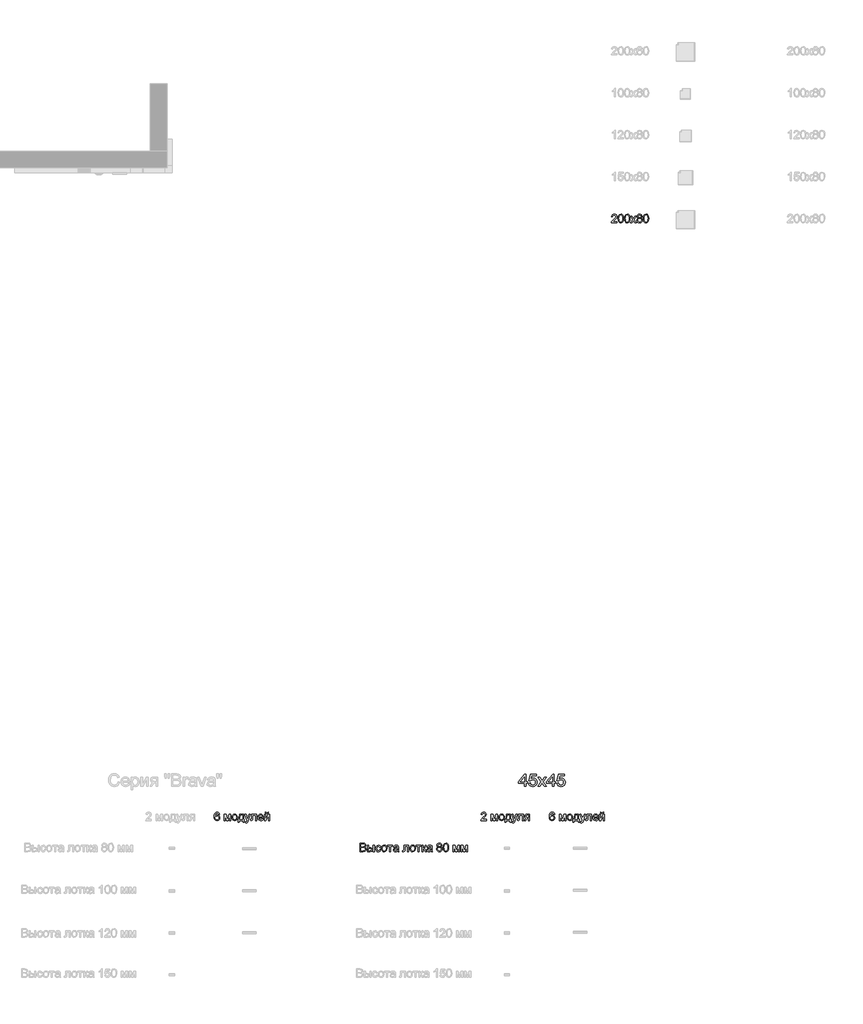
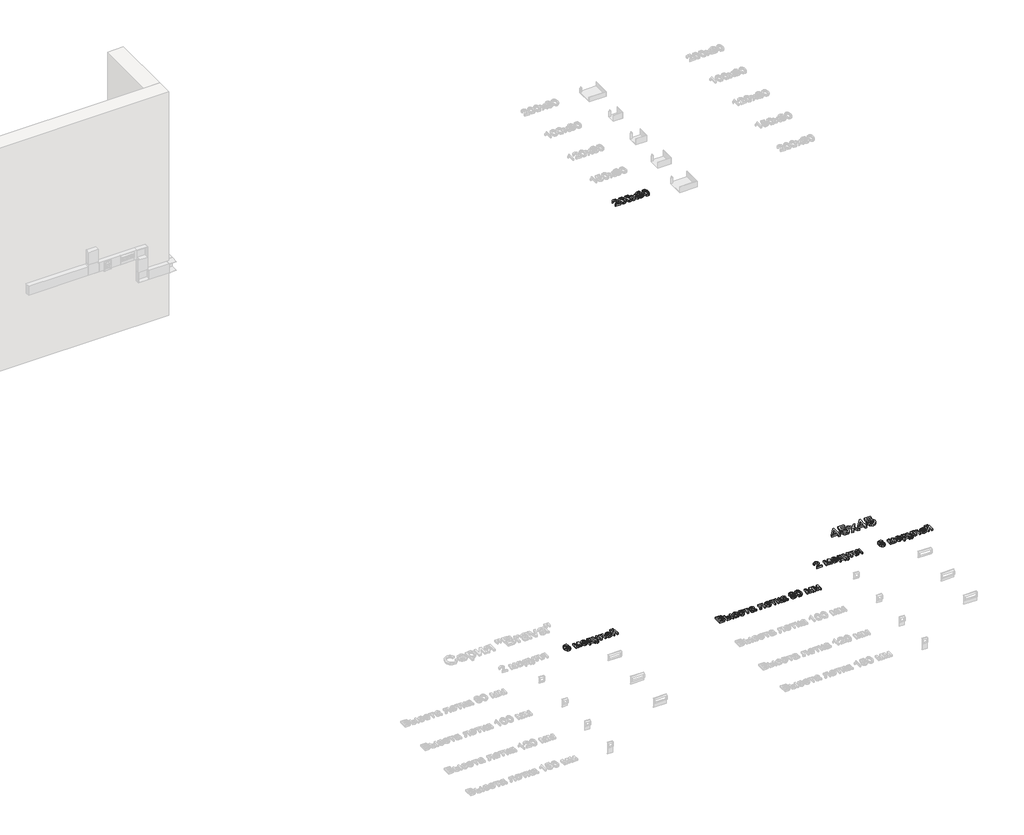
# One storey, part 12 of 28: 6 proxies.
"""IFC4 building model written with IfcOpenShell, lengths in millimetres."""

from ifc_helpers import new_model, si_unit, origin, origin_with_axes, place, context, project, spatial, polyline, outline, extrude, element, save

model = new_model("IFC4")

# Units and contexts
model_context = context("Model", 3, world=origin())
ifc_project = project(units=[si_unit("LENGTHUNIT", "METRE", prefix="MILLI")], contexts=[model_context])

# Site, building, storey
site = spatial("IfcSite", under=ifc_project)
building = spatial("IfcBuilding", under=site)
storey = spatial("IfcBuildingStorey", under=building, Name="Этаж 01", Elevation=0.0)

# Proxies
placement = place(None, origin())
element("IfcBuildingElementProxy", 1, Name="150 мм Arial", ObjectType="150 мм Arial", at=placement, inside=storey, context=model_context, shape_type="SweptSolid", body=[
    extrude(outline(polyline([(11877.4037706, -11189.4000589), (11877.4037706, -11154.0833874), (11809.1248723, -11154.0833874), (11809.1248723, -11135.2478293), (11882.1126602, -11041.0700385), (11896.2393288, -11041.0700385), (11896.2393288, -11135.2478293), (11915.074887, -11135.2478293), (11915.074887, -11154.0833874), (11896.2393288, -11154.0833874), (11896.2393288, -11189.4000589), (11877.4037706, -11189.4000589)]), holes=[polyline([(11877.4037706, -11135.2478293), (11877.4037706, -11077.0488976), (11832.301438, -11135.2478293), (11877.4037706, -11135.2478293)])]), origin_with_axes(), (0.0, 0.0, 1.0), 20.0),
    extrude(outline(polyline([(11931.5560003, -11149.3744979), (11950.3915585, -11147.0200531), (11953.8496492, -11158.3278259), (11959.882914, -11166.4258283), (11968.4637615, -11171.2956663), (11979.5646007, -11172.9189456), (11993.0658699, -11170.6610698), (12003.1826248, -11163.8874426), (12009.5009981, -11153.3798131), (12011.6071225, -11139.9199306), (12009.6343553, -11127.2463959), (12003.7160537, -11117.5527053), (11993.8062324, -11111.3998789), (11979.8589063, -11109.3489368), (11963.3226106, -11112.6230865), (11952.7460033, -11121.1211606), (11933.9104451, -11118.7667159), (11950.3915585, -11041.0700385), (12023.3793463, -11041.0700385), (12023.3793463, -11059.9055966), (11965.6218731, -11059.9055966), (11957.5652574, -11101.4026857), (11971.0205414, -11093.2357054), (11985.1196188, -11090.5133786), (12002.7181738, -11093.8886959), (12017.3276875, -11104.0146479), (12027.1639324, -11119.4472976), (12030.4426806, -11138.7427082), (12027.4904276, -11157.5782664), (12018.6336686, -11173.6914977), (12001.6743086, -11187.2387522), (11979.4910243, -11191.7545037), (11960.9911585, -11188.8528345), (11946.252886, -11180.1478268), (11936.1499268, -11166.6511561), (11931.5560003, -11149.3744979)])), origin_with_axes(), (0.0, 0.0, 1.0), 20.0),
    extrude(outline(polyline([(12039.8604597, -11189.4000589), (12080.10675, -11133.7763013), (12042.2149045, -11078.7411548), (12064.8764354, -11078.7411548), (12083.1601705, -11105.2286584), (12091.6950328, -11117.7366463), (12099.0894609, -11107.5095268), (12119.9115819, -11078.7411548), (12142.5731128, -11078.7411548), (12102.7682809, -11133.7763013), (12141.1015848, -11189.4000589), (12118.4400539, -11189.4000589), (12095.3738528, -11155.9595856), (12091.1432098, -11149.8527445), (12062.5219906, -11189.4000589), (12039.8604597, -11189.4000589)])), origin_with_axes(), (0.0, 0.0, 1.0), 20.0),
    extrude(outline(polyline([(12214.0893726, -11189.4000589), (12214.0893726, -11154.0833874), (12145.8104743, -11154.0833874), (12145.8104743, -11135.2478293), (12218.7982622, -11041.0700385), (12232.9249308, -11041.0700385), (12232.9249308, -11135.2478293), (12251.7604889, -11135.2478293), (12251.7604889, -11154.0833874), (12232.9249308, -11154.0833874), (12232.9249308, -11189.4000589), (12214.0893726, -11189.4000589)]), holes=[polyline([(12214.0893726, -11135.2478293), (12214.0893726, -11077.0488976), (12168.98704, -11135.2478293), (12214.0893726, -11135.2478293)])]), origin_with_axes(), (0.0, 0.0, 1.0), 20.0),
    extrude(outline(polyline([(12268.2416023, -11149.3744979), (12287.0771605, -11147.0200531), (12290.5352512, -11158.3278259), (12296.568516, -11166.4258283), (12305.1493635, -11171.2956663), (12316.2502027, -11172.9189456), (12329.7514719, -11170.6610698), (12339.8682268, -11163.8874426), (12346.1866001, -11153.3798131), (12348.2927245, -11139.9199306), (12346.3199573, -11127.2463959), (12340.4016557, -11117.5527053), (12330.4918344, -11111.3998789), (12316.5445083, -11109.3489368), (12300.0082126, -11112.6230865), (12289.4316052, -11121.1211606), (12270.5960471, -11118.7667159), (12287.0771605, -11041.0700385), (12360.0649483, -11041.0700385), (12360.0649483, -11059.9055966), (12302.3074751, -11059.9055966), (12294.2508594, -11101.4026857), (12307.7061434, -11093.2357054), (12321.8052208, -11090.5133786), (12339.4037758, -11093.8886959), (12354.0132895, -11104.0146479), (12363.8495343, -11119.4472976), (12367.1282826, -11138.7427082), (12364.1760296, -11157.5782664), (12355.3192706, -11173.6914977), (12338.3599106, -11187.2387522), (12316.1766263, -11191.7545037), (12297.6767605, -11188.8528345), (12282.938488, -11180.1478268), (12272.8355287, -11166.6511561), (12268.2416023, -11149.3744979)])), origin_with_axes(), (0.0, 0.0, 1.0), 20.0),
])
element("IfcBuildingElementProxy", 2, Name="100 мм Arial", ObjectType="100 мм Arial", at=placement, inside=storey, context=model_context, shape_type="SweptSolid", body=[
    extrude(outline(polyline([(8241.5720491, -11522.3305611), (8229.0150103, -11523.9001909), (8224.2570698, -11513.4278168), (8211.6755056, -11508.2038924), (8200.3447401, -11511.2450503), (8191.7730896, -11522.6616549), (8188.2046343, -11545.0411429), (8199.2778823, -11535.0224899), (8212.9998808, -11531.7483401), (8224.6004263, -11533.9862889), (8234.3370365, -11540.7001354), (8240.9405183, -11550.9579117), (8243.1416789, -11563.8276501), (8238.9968751, -11581.1548921), (8227.5925332, -11593.4176253), (8211.1359453, -11597.6727937), (8196.8897151, -11594.852365), (8185.5436212, -11586.3910792), (8178.1216019, -11571.4550702), (8175.6475955, -11549.2104722), (8178.3944478, -11524.2006279), (8186.6350044, -11507.1002465), (8197.8860621, -11498.5102019), (8212.4603205, -11495.6468537), (8223.4783863, -11497.4188186), (8232.3014228, -11502.7347135), (8238.4818403, -11511.1776052), (8241.5720491, -11522.3305611)]), holes=[polyline([(8188.2046343, -11563.6314464), (8191.1109021, -11574.5084907), (8198.836424, -11582.4056909), (8210.1549267, -11585.1157549), (8218.4414686, -11583.711672), (8224.9560456, -11579.4994231), (8229.1774915, -11572.8775472), (8230.5846401, -11564.244583), (8229.1958856, -11555.9580411), (8225.029622, -11549.6396678), (8218.4046804, -11545.6389511), (8209.6398919, -11544.3053789), (8194.4463655, -11549.6396678), (8189.7650671, -11555.8047569), (8188.2046343, -11563.6314464)])]), origin_with_axes(), (0.0, 0.0, 1.0), 20.0),
    extrude(outline(polyline([(8296.5090937, -11522.3305611), (8318.1160295, -11522.3305611), (8334.7688212, -11581.387884), (8352.7214625, -11522.3305611), (8373.4209561, -11522.3305611), (8373.4209561, -11596.1031638), (8360.8639174, -11596.1031638), (8360.8639174, -11536.7024843), (8342.8131741, -11596.1031638), (8326.3320607, -11596.1031638), (8309.0661324, -11533.8575302), (8309.0661324, -11596.1031638), (8296.5090937, -11596.1031638), (8296.5090937, -11522.3305611)])), origin_with_axes(), (0.0, 0.0, 1.0), 20.0),
    extrude(outline(polyline([(8389.1172546, -11559.2168624), (8391.83345, -11541.429768), (8399.9820362, -11528.9279115), (8410.0497401, -11522.8026763), (8422.1040068, -11520.7609312), (8435.295642, -11523.2472004), (8445.8323955, -11530.7060078), (8452.73938, -11542.5487424), (8455.0417081, -11558.1867929), (8450.9704807, -11580.5294927), (8439.1124177, -11593.1723706), (8422.1040068, -11597.6727937), (8408.7529561, -11595.1957216), (8398.2284653, -11587.7645053), (8391.3950573, -11575.6734504), (8389.1172546, -11559.2168624)]), holes=[polyline([(8401.6742934, -11559.192337), (8403.1274272, -11570.5568249), (8407.4868289, -11578.6532945), (8414.0473911, -11583.5001398), (8422.1040068, -11585.1157549), (8430.1238343, -11583.4909428), (8436.6721338, -11578.6165063), (8441.0315355, -11570.4127378), (8442.4846694, -11558.7999295), (8441.0223384, -11547.7665353), (8436.6353456, -11539.7804304), (8430.0778491, -11534.9335851), (8422.1040068, -11533.31797), (8414.0473911, -11534.9274537), (8407.4868289, -11539.7559049), (8403.1274272, -11547.8339804), (8401.6742934, -11559.192337)])]), origin_with_axes(), (0.0, 0.0, 1.0), 20.0),
    extrude(outline(polyline([(8480.1557857, -11522.3305611), (8527.244681, -11522.3305611), (8527.244681, -11583.5461251), (8536.6624601, -11583.5461251), (8536.6624601, -11616.5083518), (8524.1054214, -11616.5083518), (8524.1054214, -11596.1031638), (8472.3076364, -11596.1031638), (8472.3076364, -11616.5083518), (8459.7505977, -11616.5083518), (8459.7505977, -11583.5461251), (8467.5987469, -11583.5461251), (8477.2985688, -11559.5970072), (8480.1557857, -11522.3305611)]), holes=[polyline([(8491.1431946, -11534.8875998), (8488.2001386, -11563.4965563), (8481.7254155, -11583.5461251), (8514.6876423, -11583.5461251), (8514.6876423, -11534.8875998), (8491.1431946, -11534.8875998)])]), origin_with_axes(), (0.0, 0.0, 1.0), 20.0),
    extrude(outline(polyline([(8550.7891287, -11624.3565011), (8549.2194989, -11612.2654462), (8555.5961201, -11613.3690921), (8561.5558085, -11611.9834033), (8565.2101029, -11608.1206423), (8568.6436682, -11598.8745415), (8569.6246869, -11595.8333837), (8542.9409795, -11522.3305611), (8556.1847313, -11522.3305611), (8570.3359254, -11563.2880899), (8575.2655441, -11579.6711014), (8580.1951629, -11565.2010762), (8594.7387644, -11522.3305611), (8607.8844144, -11522.3305611), (8582.2062511, -11597.8689974), (8575.5353243, -11614.2520089), (8568.2512608, -11623.1057023), (8558.4655997, -11625.9261309), (8550.7891287, -11624.3565011)])), origin_with_axes(), (0.0, 0.0, 1.0), 20.0),
    extrude(outline(polyline([(8624.5617315, -11522.3305611), (8681.068406, -11522.3305611), (8681.068406, -11596.0295874), (8668.5113672, -11596.0295874), (8668.5113672, -11534.8875998), (8637.1187703, -11534.8875998), (8637.1187703, -11570.081644), (8636.2726417, -11586.3175028), (8631.6250658, -11593.1723706), (8620.6376569, -11596.1031638), (8610.4350629, -11595.4655017), (8610.4350629, -11583.5461251), (8616.0513947, -11583.5461251), (8621.7290401, -11582.7735729), (8623.9976458, -11580.3210262), (8624.5617315, -11569.3704055), (8624.5617315, -11522.3305611)])), origin_with_axes(), (0.0, 0.0, 1.0), 20.0),
    extrude(outline(polyline([(8751.5545962, -11574.128346), (8763.8663803, -11575.6979758), (8759.4303366, -11584.9747335), (8752.3516739, -11591.9093091), (8742.7898077, -11596.2319225), (8730.9041536, -11597.6727937), (8716.1704797, -11595.1865245), (8704.8335829, -11587.7277171), (8697.6047016, -11575.7807493), (8695.1950746, -11559.8299991), (8697.6292271, -11543.3427544), (8704.9316847, -11531.0125762), (8716.1152974, -11523.3238425), (8730.1929151, -11520.7609312), (8743.83214, -11523.3177111), (8754.7306441, -11530.9880507), (8761.8767519, -11543.2937034), (8764.2587878, -11559.7564227), (8764.1852114, -11563.1409371), (8707.7521133, -11563.1409371), (8709.9256828, -11572.540322), (8714.9748632, -11579.4503722), (8722.2619924, -11583.6994092), (8731.1494082, -11585.1157549), (8743.4611923, -11582.49153), (8751.5545962, -11574.128346)]), holes=[polyline([(8707.7521133, -11550.5838983), (8751.701749, -11550.5838983), (8746.6740284, -11539.2040819), (8739.3531767, -11534.789498), (8730.1438641, -11533.31797), (8714.6805576, -11538.0145968), (8709.8153182, -11543.5052356), (8707.7521133, -11550.5838983)])]), origin_with_axes(), (0.0, 0.0, 1.0), 20.0),
    extrude(outline(polyline([(8776.8158266, -11522.3305611), (8789.3728653, -11522.3305611), (8789.3728653, -11578.5919809), (8820.225902, -11522.3305611), (8836.4617607, -11522.3305611), (8836.4617607, -11596.1031638), (8823.904722, -11596.1031638), (8823.904722, -11540.1851006), (8793.247889, -11596.1031638), (8776.8158266, -11596.1031638), (8776.8158266, -11522.3305611)])), origin_with_axes(), (0.0, 0.0, 1.0), 20.0),
    extrude(outline(polyline([(8817.6262026, -11495.6468537), (8827.0439816, -11495.6468537), (8820.9494033, -11509.6141068), (8807.4236086, -11514.4824118), (8792.7819052, -11509.650895), (8786.2336056, -11495.6468537), (8795.6513847, -11495.6468537), (8799.1830519, -11502.7224507), (8806.2954371, -11505.0646328), (8814.0945354, -11502.7960271), (8817.6262026, -11495.6468537)])), origin_with_axes(), (0.0, 0.0, 1.0), 20.0),
])
element("IfcBuildingElementProxy", 3, Name="100 мм Arial", ObjectType="100 мм Arial", at=placement, inside=storey, context=model_context, shape_type="SweptSolid", body=[
    extrude(outline(polyline([(9915.5247749, -11966.5703412), (9915.5247749, -11866.114031), (9953.8580788, -11866.114031), (9972.6323233, -11869.0693497), (9983.7178341, -11878.156035), (9987.7277478, -11891.0073794), (9984.3554962, -11902.742815), (9974.165165, -11911.6332966), (9986.5382627, -11921.0020247), (9990.8670075, -11936.6247468), (9987.9116888, -11950.126016), (9980.5908371, -11959.7399988), (9969.6647419, -11964.8412958), (9953.5637732, -11966.5703412), (9915.5247749, -11966.5703412)]), holes=[polyline([(9928.0818137, -11906.924407), (9951.0131247, -11906.924407), (9964.4040294, -11905.8452865), (9972.460645, -11901.1977106), (9975.1707091, -11893.0184676), (9972.644586, -11884.8269619), (9965.4095735, -11879.9831823), (9949.2718166, -11878.6710698), (9928.0818137, -11878.6710698), (9928.0818137, -11906.924407)]), polyline([(9928.0818137, -11954.0133024), (9953.8335534, -11954.0133024), (9963.1532306, -11953.5227931), (9971.038168, -11950.7882036), (9976.2620923, -11945.20866), (9978.3099688, -11936.7473741), (9975.9064731, -11926.9862385), (9968.1196375, -11921.1614402), (9952.60728, -11919.4814458), (9928.0818137, -11919.4814458), (9928.0818137, -11954.0133024)])]), origin_with_axes(), (0.0, 0.0, 1.0), 20.0),
    extrude(outline(polyline([(10075.6270192, -11892.7977384), (10088.184058, -11892.7977384), (10088.184058, -11966.5703412), (10075.6270192, -11966.5703412), (10075.6270192, -11892.7977384)])), origin_with_axes(), (0.0, 0.0, 1.0), 20.0),
    extrude(outline(polyline([(10006.563306, -11892.7977384), (10019.1203448, -11892.7977384), (10019.1203448, -11919.4814458), (10034.644965, -11919.4814458), (10048.0634607, -11921.0541413), (10058.0054717, -11925.7722279), (10064.158298, -11933.2555608), (10066.2092401, -11943.1239954), (10064.4893918, -11952.1095131), (10059.3298468, -11959.6909479), (10050.39338, -11964.8504929), (10037.3427663, -11966.5703412), (10006.563306, -11966.5703412), (10006.563306, -11892.7977384)]), holes=[polyline([(10019.1203448, -11954.0133024), (10032.0207401, -11954.0133024), (10048.6735317, -11951.3768148), (10053.6522014, -11943.1485208), (10049.9611187, -11935.4229989), (10033.6639463, -11932.0384846), (10019.1203448, -11932.0384846), (10019.1203448, -11954.0133024)])]), origin_with_axes(), (0.0, 0.0, 1.0), 20.0),
    extrude(outline(polyline([(10154.1085115, -11939.8866338), (10166.6655503, -11941.4562636), (10163.16454, -11952.6245479), (10156.5855836, -11961.064374), (10147.5479493, -11966.3710718), (10136.670905, -11968.139971), (10123.3137229, -11965.672096), (10112.8689399, -11958.2684708), (10106.1275023, -11946.254058), (10103.8803565, -11929.9538199), (10107.7185919, -11909.0949108), (10119.4172394, -11895.6917434), (10136.4992267, -11891.2281086), (10147.1095566, -11892.7609502), (10155.5923022, -11897.3594752), (10161.6776836, -11904.7784287), (10165.0959205, -11914.7725563), (10152.5388817, -11916.3421861), (10146.7140834, -11906.9366698), (10136.5973286, -11903.7851473), (10128.4824649, -11905.3363831), (10122.0414643, -11909.9900903), (10117.8384125, -11917.9976551), (10116.4373952, -11929.6104634), (10117.8077557, -11941.3796216), (10121.918837, -11949.4147775), (10128.2433416, -11954.0408936), (10136.253972, -11955.5829323), (10148.0875095, -11951.732434), (10154.1085115, -11939.8866338)])), origin_with_axes(), (0.0, 0.0, 1.0), 20.0),
    extrude(outline(polyline([(10174.5136995, -11929.6840398), (10177.2298949, -11911.8969453), (10185.3784811, -11899.3950889), (10195.4461851, -11893.2698536), (10207.5004518, -11891.2281086), (10220.692087, -11893.7143777), (10231.2288405, -11901.1731852), (10238.1358249, -11913.0159197), (10240.4381531, -11928.6539702), (10236.3669257, -11950.9966701), (10224.5088627, -11963.639548), (10207.5004518, -11968.139971), (10194.149401, -11965.6628989), (10183.6249103, -11958.2316826), (10176.7915022, -11946.1406277), (10174.5136995, -11929.6840398)]), holes=[polyline([(10187.0707383, -11929.6595143), (10188.5238722, -11941.0240023), (10192.8832738, -11949.1204719), (10199.4438361, -11953.9673172), (10207.5004518, -11955.5829323), (10215.5202793, -11953.9581201), (10222.0685788, -11949.0836837), (10226.4279804, -11940.8799152), (10227.8811143, -11929.2671069), (10226.4187834, -11918.2337127), (10222.0317906, -11910.2476077), (10215.474294, -11905.4007624), (10207.5004518, -11903.7851473), (10199.4438361, -11905.3946311), (10192.8832738, -11910.2230823), (10188.5238722, -11918.3011577), (10187.0707383, -11929.6595143)])]), origin_with_axes(), (0.0, 0.0, 1.0), 20.0),
    extrude(outline(polyline([(10248.2863023, -11892.7977384), (10307.9322364, -11892.7977384), (10307.9322364, -11905.3547772), (10284.3877888, -11905.3547772), (10284.3877888, -11966.5703412), (10271.83075, -11966.5703412), (10271.83075, -11905.3547772), (10248.2863023, -11905.3547772), (10248.2863023, -11892.7977384)])), origin_with_axes(), (0.0, 0.0, 1.0), 20.0),
    extrude(outline(polyline([(10366.0085408, -11957.1525621), (10353.8316467, -11965.6628989), (10340.3794284, -11968.139971), (10329.8855945, -11966.6500489), (10322.1447442, -11962.1802827), (10317.3714753, -11955.3928599), (10315.7803857, -11946.9499681), (10318.1838814, -11937.0171542), (10324.499189, -11929.8066671), (10333.2915686, -11925.6863888), (10344.1563502, -11923.7979279), (10365.9349644, -11919.4814458), (10366.0085408, -11916.6855426), (10362.55045, -11907.4149164), (10348.669036, -11903.7851473), (10335.9648445, -11906.2009058), (10329.9070543, -11914.7725563), (10317.3500155, -11913.2029264), (10322.7824063, -11900.9401932), (10333.7207643, -11893.7542316), (10350.2877168, -11891.2281086), (10365.5057687, -11893.459926), (10374.1019446, -11899.0639951), (10377.9524429, -11907.5865946), (10378.5655795, -11918.5740035), (10378.5655795, -11934.1967256), (10379.2032416, -11956.0121279), (10381.7048392, -11966.5703412), (10369.1478004, -11966.5703412), (10366.0085408, -11957.1525621)]), holes=[polyline([(10366.0085408, -11932.0384846), (10345.7505056, -11935.8889828), (10334.9470376, -11937.9245965), (10330.0542071, -11941.2355344), (10328.3374244, -11946.0670513), (10332.0775581, -11952.8606055), (10343.0527043, -11955.5829323), (10355.7568958, -11952.5785626), (10363.9484016, -11945.3067619), (10365.9349644, -11935.5946772), (10366.0085408, -11932.0384846)])]), origin_with_axes(), (0.0, 0.0, 1.0), 20.0),
    extrude(outline(polyline([(10441.3507734, -11892.7977384), (10497.8574478, -11892.7977384), (10497.8574478, -11966.4967648), (10485.3004091, -11966.4967648), (10485.3004091, -11905.3547772), (10453.9078121, -11905.3547772), (10453.9078121, -11940.5488214), (10453.0616835, -11956.7846801), (10448.4141077, -11963.639548), (10437.4266987, -11966.5703412), (10427.2241047, -11965.9326791), (10427.2241047, -11954.0133024), (10432.8404365, -11954.0133024), (10438.518082, -11953.2407502), (10440.7866876, -11950.7882036), (10441.3507734, -11939.8375829), (10441.3507734, -11892.7977384)])), origin_with_axes(), (0.0, 0.0, 1.0), 20.0),
    extrude(outline(polyline([(10513.5537463, -11929.6840398), (10516.2699417, -11911.8969453), (10524.4185279, -11899.3950889), (10534.4862318, -11893.2698536), (10546.5404985, -11891.2281086), (10559.7321337, -11893.7143777), (10570.2688872, -11901.1731852), (10577.1758717, -11913.0159197), (10579.4781998, -11928.6539702), (10575.4069724, -11950.9966701), (10563.5489094, -11963.639548), (10546.5404985, -11968.139971), (10533.1894478, -11965.6628989), (10522.664957, -11958.2316826), (10515.831549, -11946.1406277), (10513.5537463, -11929.6840398)]), holes=[polyline([(10526.1107851, -11929.6595143), (10527.5639189, -11941.0240023), (10531.9233206, -11949.1204719), (10538.4838828, -11953.9673172), (10546.5404985, -11955.5829323), (10554.560326, -11953.9581201), (10561.1086255, -11949.0836837), (10565.4680272, -11940.8799152), (10566.9211611, -11929.2671069), (10565.4588301, -11918.2337127), (10561.0718373, -11910.2476077), (10554.5143408, -11905.4007624), (10546.5404985, -11903.7851473), (10538.4838828, -11905.3946311), (10531.9233206, -11910.2230823), (10527.5639189, -11918.3011577), (10526.1107851, -11929.6595143)])]), origin_with_axes(), (0.0, 0.0, 1.0), 20.0),
    extrude(outline(polyline([(10587.326349, -11892.7977384), (10646.9722832, -11892.7977384), (10646.9722832, -11905.3547772), (10623.4278355, -11905.3547772), (10623.4278355, -11966.5703412), (10610.8707967, -11966.5703412), (10610.8707967, -11905.3547772), (10587.326349, -11905.3547772), (10587.326349, -11892.7977384)])), origin_with_axes(), (0.0, 0.0, 1.0), 20.0),
    extrude(outline(polyline([(10657.9596921, -11892.7977384), (10670.5167309, -11892.7977384), (10670.5167309, -11924.1903353), (10678.9289658, -11921.9339924), (10685.8206219, -11908.7883425), (10691.5473183, -11897.4453143), (10696.5995644, -11893.7542316), (10705.7843515, -11892.7977384), (10708.1878472, -11892.7977384), (10708.1878472, -11905.4283536), (10704.8033328, -11905.3547772), (10698.6719663, -11906.6791524), (10694.3554842, -11914.9442345), (10689.2909754, -11923.883767), (10682.1908529, -11928.2615628), (10690.1125785, -11933.1482619), (10697.8871513, -11943.4428264), (10711.3271069, -11966.5703412), (10697.0532855, -11966.5703412), (10683.8831101, -11943.9333357), (10677.2612341, -11934.3561411), (10670.5167309, -11932.0384846), (10670.5167309, -11966.5703412), (10657.9596921, -11966.5703412), (10657.9596921, -11892.7977384)])), origin_with_axes(), (0.0, 0.0, 1.0), 20.0),
    extrude(outline(polyline([(10766.2641515, -11957.1525621), (10754.0872575, -11965.6628989), (10740.6350392, -11968.139971), (10730.1412053, -11966.6500489), (10722.4003549, -11962.1802827), (10717.6270861, -11955.3928599), (10716.0359964, -11946.9499681), (10718.4394921, -11937.0171542), (10724.7547997, -11929.8066671), (10733.5471794, -11925.6863888), (10744.411961, -11923.7979279), (10766.1905751, -11919.4814458), (10766.2641515, -11916.6855426), (10762.8060607, -11907.4149164), (10748.9246468, -11903.7851473), (10736.2204552, -11906.2009058), (10730.162665, -11914.7725563), (10717.6056263, -11913.2029264), (10723.0380171, -11900.9401932), (10733.9763751, -11893.7542316), (10750.5433276, -11891.2281086), (10765.7613794, -11893.459926), (10774.3575554, -11899.0639951), (10778.2080536, -11907.5865946), (10778.8211903, -11918.5740035), (10778.8211903, -11934.1967256), (10779.4588524, -11956.0121279), (10781.96045, -11966.5703412), (10769.4034112, -11966.5703412), (10766.2641515, -11957.1525621)]), holes=[polyline([(10766.2641515, -11932.0384846), (10746.0061163, -11935.8889828), (10735.2026484, -11937.9245965), (10730.3098178, -11941.2355344), (10728.5930352, -11946.0670513), (10732.3331688, -11952.8606055), (10743.308315, -11955.5829323), (10756.0125066, -11952.5785626), (10764.2040123, -11945.3067619), (10766.1905751, -11935.5946772), (10766.2641515, -11932.0384846)])]), origin_with_axes(), (0.0, 0.0, 1.0), 20.0),
    extrude(outline(polyline([(10850.4846029, -11911.2408891), (10839.0434729, -11903.4417908), (10835.3278647, -11891.301685), (10837.3512157, -11881.4853671), (10843.4212686, -11873.3735691), (10852.8574418, -11867.9289155), (10864.9791535, -11866.114031), (10877.1744417, -11867.9718351), (10886.7332422, -11873.5452473), (10892.9136597, -11881.785804), (10894.9737989, -11891.6450415), (10891.3072417, -11903.478579), (10880.1849427, -11911.2408891), (10893.5390591, -11921.0878638), (10898.1130586, -11937.3359853), (10895.8444529, -11949.3412011), (10889.038636, -11959.2617522), (10878.5294737, -11965.9204163), (10865.1508318, -11968.139971), (10851.7721899, -11965.9112193), (10841.2630276, -11959.224964), (10834.4572107, -11949.2093767), (10832.188605, -11936.9926288), (10836.9465455, -11920.3643626), (10850.4846029, -11911.2408891)]), holes=[polyline([(10847.8849035, -11891.669567), (10852.3362756, -11901.5288044), (10865.2979846, -11905.3547772), (10878.0021762, -11901.5533299), (10882.4167601, -11892.2336527), (10877.8550234, -11882.5828817), (10865.1508318, -11878.6710698), (10852.409852, -11882.4970426), (10847.8849035, -11891.669567)]), polyline([(10844.7456438, -11936.5511704), (10846.8425712, -11946.0057377), (10854.2615248, -11953.0813347), (10865.2489337, -11955.5829323), (10873.7960587, -11954.2677541), (10880.2094681, -11950.3222197), (10885.5560198, -11936.9435778), (10880.0377899, -11923.3074186), (10873.4772276, -11919.2607166), (10864.8320007, -11917.911816), (10856.4044374, -11919.2423225), (10850.0554073, -11923.2338422), (10844.7456438, -11936.5511704)])]), origin_with_axes(), (0.0, 0.0, 1.0), 20.0),
    extrude(outline(polyline([(10909.1004675, -11917.1515265), (10912.7915502, -11888.2482644), (10923.7544336, -11871.58321), (10942.0626943, -11866.114031), (10956.7289231, -11869.3513926), (10966.8579407, -11878.6833325), (10972.7440527, -11893.5457651), (10975.024921, -11917.1515265), (10971.3706265, -11945.9321613), (10960.4445313, -11962.6340038), (10952.2131716, -11966.7634792), (10942.0626943, -11968.139971), (10929.0151462, -11965.7487381), (10919.1068578, -11958.5750392), (10911.6020651, -11941.5850223), (10909.1004675, -11917.1515265)]), holes=[polyline([(10921.6575063, -11917.127001), (10923.1290342, -11936.8791985), (10927.5436182, -11948.3111315), (10934.1164432, -11953.7649821), (10942.0626943, -11955.5829323), (10950.0089454, -11953.7588507), (10956.5817703, -11948.286606), (10960.9963543, -11936.8485417), (10962.4678823, -11917.127001), (10961.0454052, -11897.8193277), (10956.7779741, -11886.2984898), (10950.2174118, -11880.5779248), (10941.9155415, -11878.6710698), (10934.0551295, -11880.3510642), (10927.7398219, -11885.3910476), (10923.1780852, -11897.6292553), (10921.6575063, -11917.127001)])]), origin_with_axes(), (0.0, 0.0, 1.0), 20.0),
    extrude(outline(polyline([(11028.3923358, -11892.7977384), (11049.9992717, -11892.7977384), (11066.6520633, -11951.8550614), (11084.6047047, -11892.7977384), (11105.3041983, -11892.7977384), (11105.3041983, -11966.5703412), (11092.7471595, -11966.5703412), (11092.7471595, -11907.1696617), (11074.6964163, -11966.5703412), (11058.2153029, -11966.5703412), (11040.9493746, -11904.3247076), (11040.9493746, -11966.5703412), (11028.3923358, -11966.5703412), (11028.3923358, -11892.7977384)])), origin_with_axes(), (0.0, 0.0, 1.0), 20.0),
    extrude(outline(polyline([(11124.1397564, -11892.7977384), (11145.7466923, -11892.7977384), (11162.3994839, -11951.8550614), (11180.3521253, -11892.7977384), (11201.0516189, -11892.7977384), (11201.0516189, -11966.5703412), (11188.4945801, -11966.5703412), (11188.4945801, -11907.1696617), (11170.4438369, -11966.5703412), (11153.9627235, -11966.5703412), (11136.6967952, -11904.3247076), (11136.6967952, -11966.5703412), (11124.1397564, -11966.5703412), (11124.1397564, -11892.7977384)])), origin_with_axes(), (0.0, 0.0, 1.0), 20.0),
])
element("IfcBuildingElementProxy", 4, Name="100 мм Arial", ObjectType="100 мм Arial", at=placement, inside=storey, context=model_context, shape_type="SweptSolid", body=[
    extrude(outline(polyline([(11427.6955086, -11583.5461251), (11427.6955086, -11596.1031638), (11361.771055, -11596.1031638), (11363.1199557, -11587.4456742), (11370.7473757, -11574.1160833), (11386.4681996, -11559.560219), (11408.1487119, -11538.6399962), (11413.5688399, -11524.4152257), (11408.4552802, -11512.9005193), (11395.1011638, -11508.2038924), (11381.1829616, -11512.7901547), (11375.8977236, -11525.4698208), (11363.3406849, -11523.9001909), (11366.3849084, -11511.7539537), (11372.9669304, -11502.8818663), (11382.7433944, -11497.4556068), (11395.3709439, -11495.6468537), (11408.0904639, -11497.6579419), (11417.8485338, -11503.6912066), (11424.0565425, -11512.7043155), (11426.1258787, -11523.6549362), (11423.8940613, -11535.5620502), (11416.4751077, -11547.8738343), (11398.4856781, -11565.0784489), (11384.0401785, -11577.1572411), (11378.3747957, -11583.5461251), (11427.6955086, -11583.5461251)])), origin_with_axes(), (0.0, 0.0, 1.0), 20.0),
    extrude(outline(polyline([(11482.6325532, -11522.3305611), (11504.239489, -11522.3305611), (11520.8922807, -11581.387884), (11538.844922, -11522.3305611), (11559.5444156, -11522.3305611), (11559.5444156, -11596.1031638), (11546.9873769, -11596.1031638), (11546.9873769, -11536.7024843), (11528.9366336, -11596.1031638), (11512.4555202, -11596.1031638), (11495.1895919, -11533.8575302), (11495.1895919, -11596.1031638), (11482.6325532, -11596.1031638), (11482.6325532, -11522.3305611)])), origin_with_axes(), (0.0, 0.0, 1.0), 20.0),
    extrude(outline(polyline([(11575.2407141, -11559.2168624), (11577.9569095, -11541.429768), (11586.1054957, -11528.9279115), (11596.1731996, -11522.8026763), (11608.2274663, -11520.7609312), (11621.4191015, -11523.2472004), (11631.955855, -11530.7060078), (11638.8628395, -11542.5487424), (11641.1651676, -11558.1867929), (11637.0939402, -11580.5294927), (11625.2358772, -11593.1723706), (11608.2274663, -11597.6727937), (11594.8764156, -11595.1957216), (11584.3519248, -11587.7645053), (11577.5185168, -11575.6734504), (11575.2407141, -11559.2168624)]), holes=[polyline([(11587.7977529, -11559.192337), (11589.2508867, -11570.5568249), (11593.6102884, -11578.6532945), (11600.1708506, -11583.5001398), (11608.2274663, -11585.1157549), (11616.2472938, -11583.4909428), (11622.7955933, -11578.6165063), (11627.154995, -11570.4127378), (11628.6081289, -11558.7999295), (11627.1457979, -11547.7665353), (11622.7588051, -11539.7804304), (11616.2013086, -11534.9335851), (11608.2274663, -11533.31797), (11600.1708506, -11534.9274537), (11593.6102884, -11539.7559049), (11589.2508867, -11547.8339804), (11587.7977529, -11559.192337)])]), origin_with_axes(), (0.0, 0.0, 1.0), 20.0),
    extrude(outline(polyline([(11666.2792452, -11522.3305611), (11713.3681405, -11522.3305611), (11713.3681405, -11583.5461251), (11722.7859196, -11583.5461251), (11722.7859196, -11616.5083518), (11710.2288808, -11616.5083518), (11710.2288808, -11596.1031638), (11658.4310959, -11596.1031638), (11658.4310959, -11616.5083518), (11645.8740572, -11616.5083518), (11645.8740572, -11583.5461251), (11653.7222064, -11583.5461251), (11663.4220283, -11559.5970072), (11666.2792452, -11522.3305611)]), holes=[polyline([(11677.2666541, -11534.8875998), (11674.3235981, -11563.4965563), (11667.848875, -11583.5461251), (11700.8111018, -11583.5461251), (11700.8111018, -11534.8875998), (11677.2666541, -11534.8875998)])]), origin_with_axes(), (0.0, 0.0, 1.0), 20.0),
    extrude(outline(polyline([(11736.9125882, -11624.3565011), (11735.3429584, -11612.2654462), (11741.7195796, -11613.3690921), (11747.679268, -11611.9834033), (11751.3335624, -11608.1206423), (11754.7671277, -11598.8745415), (11755.7481464, -11595.8333837), (11729.064439, -11522.3305611), (11742.3081908, -11522.3305611), (11756.4593849, -11563.2880899), (11761.3890036, -11579.6711014), (11766.3186224, -11565.2010762), (11780.8622239, -11522.3305611), (11794.0078739, -11522.3305611), (11768.3297106, -11597.8689974), (11761.6587838, -11614.2520089), (11754.3747203, -11623.1057023), (11744.5890592, -11625.9261309), (11736.9125882, -11624.3565011)])), origin_with_axes(), (0.0, 0.0, 1.0), 20.0),
    extrude(outline(polyline([(11810.685191, -11522.3305611), (11867.1918655, -11522.3305611), (11867.1918655, -11596.0295874), (11854.6348267, -11596.0295874), (11854.6348267, -11534.8875998), (11823.2422298, -11534.8875998), (11823.2422298, -11570.081644), (11822.3961012, -11586.3175028), (11817.7485253, -11593.1723706), (11806.7611164, -11596.1031638), (11796.5585224, -11595.4655017), (11796.5585224, -11583.5461251), (11802.1748542, -11583.5461251), (11807.8524996, -11582.7735729), (11810.1211053, -11580.3210262), (11810.685191, -11569.3704055), (11810.685191, -11522.3305611)])), origin_with_axes(), (0.0, 0.0, 1.0), 20.0),
    extrude(outline(polyline([(11942.5340981, -11522.3305611), (11942.5340981, -11596.1031638), (11929.9770593, -11596.1031638), (11929.9770593, -11567.8498266), (11923.1344542, -11567.8498266), (11913.814777, -11569.4439819), (11905.0591855, -11580.1616107), (11895.0527952, -11596.1031638), (11880.5337191, -11596.1031638), (11893.1398088, -11575.9432305), (11903.8329122, -11565.4953818), (11895.248999, -11562.8650256), (11889.2157342, -11557.8679618), (11884.4577938, -11543.6431913), (11886.0826059, -11535.0470154), (11890.9570423, -11528.2411985), (11898.9094248, -11523.8082204), (11909.768075, -11522.3305611), (11942.5340981, -11522.3305611)]), holes=[polyline([(11929.9770593, -11534.8875998), (11913.4223695, -11534.8875998), (11900.0192022, -11537.7938676), (11897.0148325, -11544.5996845), (11901.4416792, -11552.7053511), (11917.1257149, -11555.2927878), (11929.9770593, -11555.2927878), (11929.9770593, -11534.8875998)])]), origin_with_axes(), (0.0, 0.0, 1.0), 20.0),
])
element("IfcBuildingElementProxy", 5, Name="100 мм Arial", ObjectType="100 мм Arial", at=placement, inside=storey, context=model_context, shape_type="SweptSolid", body=[
    extrude(outline(polyline([(12241.5720491, -11522.3305611), (12229.0150103, -11523.9001909), (12224.2570698, -11513.4278168), (12211.6755056, -11508.2038924), (12200.3447401, -11511.2450503), (12191.7730896, -11522.6616549), (12188.2046343, -11545.0411429), (12199.2778823, -11535.0224899), (12212.9998808, -11531.7483401), (12224.6004263, -11533.9862889), (12234.3370365, -11540.7001354), (12240.9405183, -11550.9579117), (12243.1416789, -11563.8276501), (12238.9968751, -11581.1548921), (12227.5925332, -11593.4176253), (12211.1359453, -11597.6727937), (12196.8897151, -11594.852365), (12185.5436212, -11586.3910792), (12178.1216019, -11571.4550702), (12175.6475955, -11549.2104722), (12178.3944478, -11524.2006279), (12186.6350044, -11507.1002465), (12197.8860621, -11498.5102019), (12212.4603205, -11495.6468537), (12223.4783863, -11497.4188186), (12232.3014228, -11502.7347135), (12238.4818403, -11511.1776052), (12241.5720491, -11522.3305611)]), holes=[polyline([(12188.2046343, -11563.6314464), (12191.1109021, -11574.5084907), (12198.836424, -11582.4056909), (12210.1549267, -11585.1157549), (12218.4414686, -11583.711672), (12224.9560456, -11579.4994231), (12229.1774915, -11572.8775472), (12230.5846401, -11564.244583), (12229.1958856, -11555.9580411), (12225.029622, -11549.6396678), (12218.4046804, -11545.6389511), (12209.6398919, -11544.3053789), (12194.4463655, -11549.6396678), (12189.7650671, -11555.8047569), (12188.2046343, -11563.6314464)])]), origin_with_axes(), (0.0, 0.0, 1.0), 20.0),
    extrude(outline(polyline([(12296.5090937, -11522.3305611), (12318.1160295, -11522.3305611), (12334.7688212, -11581.387884), (12352.7214625, -11522.3305611), (12373.4209561, -11522.3305611), (12373.4209561, -11596.1031638), (12360.8639174, -11596.1031638), (12360.8639174, -11536.7024843), (12342.8131741, -11596.1031638), (12326.3320607, -11596.1031638), (12309.0661324, -11533.8575302), (12309.0661324, -11596.1031638), (12296.5090937, -11596.1031638), (12296.5090937, -11522.3305611)])), origin_with_axes(), (0.0, 0.0, 1.0), 20.0),
    extrude(outline(polyline([(12389.1172546, -11559.2168624), (12391.83345, -11541.429768), (12399.9820362, -11528.9279115), (12410.0497401, -11522.8026763), (12422.1040068, -11520.7609312), (12435.295642, -11523.2472004), (12445.8323955, -11530.7060078), (12452.73938, -11542.5487424), (12455.0417081, -11558.1867929), (12450.9704807, -11580.5294927), (12439.1124177, -11593.1723706), (12422.1040068, -11597.6727937), (12408.7529561, -11595.1957216), (12398.2284653, -11587.7645053), (12391.3950573, -11575.6734504), (12389.1172546, -11559.2168624)]), holes=[polyline([(12401.6742934, -11559.192337), (12403.1274272, -11570.5568249), (12407.4868289, -11578.6532945), (12414.0473911, -11583.5001398), (12422.1040068, -11585.1157549), (12430.1238343, -11583.4909428), (12436.6721338, -11578.6165063), (12441.0315355, -11570.4127378), (12442.4846694, -11558.7999295), (12441.0223384, -11547.7665353), (12436.6353456, -11539.7804304), (12430.0778491, -11534.9335851), (12422.1040068, -11533.31797), (12414.0473911, -11534.9274537), (12407.4868289, -11539.7559049), (12403.1274272, -11547.8339804), (12401.6742934, -11559.192337)])]), origin_with_axes(), (0.0, 0.0, 1.0), 20.0),
    extrude(outline(polyline([(12480.1557857, -11522.3305611), (12527.244681, -11522.3305611), (12527.244681, -11583.5461251), (12536.6624601, -11583.5461251), (12536.6624601, -11616.5083518), (12524.1054214, -11616.5083518), (12524.1054214, -11596.1031638), (12472.3076364, -11596.1031638), (12472.3076364, -11616.5083518), (12459.7505977, -11616.5083518), (12459.7505977, -11583.5461251), (12467.5987469, -11583.5461251), (12477.2985688, -11559.5970072), (12480.1557857, -11522.3305611)]), holes=[polyline([(12491.1431946, -11534.8875998), (12488.2001386, -11563.4965563), (12481.7254155, -11583.5461251), (12514.6876423, -11583.5461251), (12514.6876423, -11534.8875998), (12491.1431946, -11534.8875998)])]), origin_with_axes(), (0.0, 0.0, 1.0), 20.0),
    extrude(outline(polyline([(12550.7891287, -11624.3565011), (12549.2194989, -11612.2654462), (12555.5961201, -11613.3690921), (12561.5558085, -11611.9834033), (12565.2101029, -11608.1206423), (12568.6436682, -11598.8745415), (12569.6246869, -11595.8333837), (12542.9409795, -11522.3305611), (12556.1847313, -11522.3305611), (12570.3359254, -11563.2880899), (12575.2655441, -11579.6711014), (12580.1951629, -11565.2010762), (12594.7387644, -11522.3305611), (12607.8844144, -11522.3305611), (12582.2062511, -11597.8689974), (12575.5353243, -11614.2520089), (12568.2512608, -11623.1057023), (12558.4655997, -11625.9261309), (12550.7891287, -11624.3565011)])), origin_with_axes(), (0.0, 0.0, 1.0), 20.0),
    extrude(outline(polyline([(12624.5617315, -11522.3305611), (12681.068406, -11522.3305611), (12681.068406, -11596.0295874), (12668.5113672, -11596.0295874), (12668.5113672, -11534.8875998), (12637.1187703, -11534.8875998), (12637.1187703, -11570.081644), (12636.2726417, -11586.3175028), (12631.6250658, -11593.1723706), (12620.6376569, -11596.1031638), (12610.4350629, -11595.4655017), (12610.4350629, -11583.5461251), (12616.0513947, -11583.5461251), (12621.7290401, -11582.7735729), (12623.9976458, -11580.3210262), (12624.5617315, -11569.3704055), (12624.5617315, -11522.3305611)])), origin_with_axes(), (0.0, 0.0, 1.0), 20.0),
    extrude(outline(polyline([(12751.5545962, -11574.128346), (12763.8663803, -11575.6979758), (12759.4303366, -11584.9747335), (12752.3516739, -11591.9093091), (12742.7898077, -11596.2319225), (12730.9041536, -11597.6727937), (12716.1704797, -11595.1865245), (12704.8335829, -11587.7277171), (12697.6047016, -11575.7807493), (12695.1950746, -11559.8299991), (12697.6292271, -11543.3427544), (12704.9316847, -11531.0125762), (12716.1152974, -11523.3238425), (12730.1929151, -11520.7609312), (12743.83214, -11523.3177111), (12754.7306441, -11530.9880507), (12761.8767519, -11543.2937034), (12764.2587878, -11559.7564227), (12764.1852114, -11563.1409371), (12707.7521133, -11563.1409371), (12709.9256828, -11572.540322), (12714.9748632, -11579.4503722), (12722.2619924, -11583.6994092), (12731.1494082, -11585.1157549), (12743.4611923, -11582.49153), (12751.5545962, -11574.128346)]), holes=[polyline([(12707.7521133, -11550.5838983), (12751.701749, -11550.5838983), (12746.6740284, -11539.2040819), (12739.3531767, -11534.789498), (12730.1438641, -11533.31797), (12714.6805576, -11538.0145968), (12709.8153182, -11543.5052356), (12707.7521133, -11550.5838983)])]), origin_with_axes(), (0.0, 0.0, 1.0), 20.0),
    extrude(outline(polyline([(12776.8158266, -11522.3305611), (12789.3728653, -11522.3305611), (12789.3728653, -11578.5919809), (12820.225902, -11522.3305611), (12836.4617607, -11522.3305611), (12836.4617607, -11596.1031638), (12823.904722, -11596.1031638), (12823.904722, -11540.1851006), (12793.247889, -11596.1031638), (12776.8158266, -11596.1031638), (12776.8158266, -11522.3305611)])), origin_with_axes(), (0.0, 0.0, 1.0), 20.0),
    extrude(outline(polyline([(12817.6262026, -11495.6468537), (12827.0439816, -11495.6468537), (12820.9494033, -11509.6141068), (12807.4236086, -11514.4824118), (12792.7819052, -11509.650895), (12786.2336056, -11495.6468537), (12795.6513847, -11495.6468537), (12799.1830519, -11502.7224507), (12806.2954371, -11505.0646328), (12814.0945354, -11502.7960271), (12817.6262026, -11495.6468537)])), origin_with_axes(), (0.0, 0.0, 1.0), 20.0),
])
element("IfcBuildingElementProxy", 6, Name="100 мм Arial", ObjectType="100 мм Arial", at=placement, inside=storey, context=model_context, shape_type="SweptSolid", body=[
    extrude(outline(polyline([(12984.7984291, -4450.778217), (12984.7984291, -4463.3352558), (12918.8739756, -4463.3352558), (12920.2228762, -4454.6777662), (12927.8502962, -4441.3481752), (12943.5711202, -4426.7923109), (12965.2516324, -4405.8720882), (12970.6717605, -4391.6473177), (12965.5582007, -4380.1326112), (12952.2040843, -4375.4359844), (12938.2858822, -4380.0222466), (12933.0006442, -4392.7019127), (12920.4436054, -4391.1322829), (12923.4878289, -4378.9860457), (12930.0698509, -4370.1139582), (12939.846315, -4364.6876988), (12952.4738644, -4362.8789457), (12965.1933844, -4364.8900339), (12974.9514544, -4370.9232986), (12981.159463, -4379.9364075), (12983.2287992, -4390.8870282), (12980.9969818, -4402.7941421), (12973.5780282, -4415.1059262), (12955.5885987, -4432.3105409), (12941.143099, -4444.389333), (12935.4777163, -4450.778217), (12984.7984291, -4450.778217)])), origin_with_axes(), (0.0, 0.0, 1.0), 20.0),
    extrude(outline(polyline([(12997.3554679, -4413.9164411), (13001.0465505, -4385.013179), (13012.009434, -4368.3481246), (13030.3176946, -4362.8789457), (13044.9839235, -4366.1163072), (13055.1129411, -4375.4482472), (13060.999053, -4390.3106798), (13063.2799214, -4413.9164411), (13059.6256269, -4442.6970759), (13048.6995317, -4459.3989185), (13040.468172, -4463.5283938), (13030.3176946, -4464.9048856), (13017.2701465, -4462.5136527), (13007.3618581, -4455.3399538), (12999.8570654, -4438.349937), (12997.3554679, -4413.9164411)]), holes=[polyline([(13009.9125066, -4413.8919156), (13011.3840346, -4433.6441131), (13015.7986186, -4445.0760461), (13022.3714435, -4450.5298967), (13030.3176946, -4452.3478469), (13038.2639457, -4450.5237653), (13044.8367707, -4445.0515206), (13049.2513546, -4433.6134563), (13050.7228826, -4413.8919156), (13049.3004056, -4394.5842423), (13045.0329744, -4383.0634045), (13038.4724122, -4377.3428394), (13030.1705418, -4375.4359844), (13022.3101299, -4377.1159789), (13015.9948223, -4382.1559622), (13011.4330855, -4394.3941699), (13009.9125066, -4413.8919156)])]), origin_with_axes(), (0.0, 0.0, 1.0), 20.0),
    extrude(outline(polyline([(13074.2673303, -4413.9164411), (13077.958413, -4385.013179), (13088.9212965, -4368.3481246), (13107.2295571, -4362.8789457), (13121.895786, -4366.1163072), (13132.0248036, -4375.4482472), (13137.9109155, -4390.3106798), (13140.1917839, -4413.9164411), (13136.5374894, -4442.6970759), (13125.6113941, -4459.3989185), (13117.3800345, -4463.5283938), (13107.2295571, -4464.9048856), (13094.182009, -4462.5136527), (13084.2737206, -4455.3399538), (13076.7689279, -4438.349937), (13074.2673303, -4413.9164411)]), holes=[polyline([(13086.8243691, -4413.8919156), (13088.2958971, -4433.6441131), (13092.710481, -4445.0760461), (13099.283306, -4450.5298967), (13107.2295571, -4452.3478469), (13115.1758082, -4450.5237653), (13121.7486332, -4445.0515206), (13126.1632171, -4433.6134563), (13127.6347451, -4413.8919156), (13126.212268, -4394.5842423), (13121.9448369, -4383.0634045), (13115.3842746, -4377.3428394), (13107.0824043, -4375.4359844), (13099.2219923, -4377.1159789), (13092.9066847, -4382.1559622), (13088.344948, -4394.3941699), (13086.8243691, -4413.8919156)])]), origin_with_axes(), (0.0, 0.0, 1.0), 20.0),
    extrude(outline(polyline([(13146.4703032, -4463.3352558), (13173.3011634, -4426.2527507), (13148.0399331, -4389.562653), (13163.1476204, -4389.562653), (13175.3367771, -4407.2209888), (13181.0266853, -4415.5596474), (13185.9563041, -4408.7415677), (13199.837718, -4389.562653), (13214.9454053, -4389.562653), (13188.4088507, -4426.2527507), (13213.9643866, -4463.3352558), (13198.8566994, -4463.3352558), (13183.479232, -4441.0416069), (13180.6588033, -4436.9703795), (13161.5779905, -4463.3352558), (13146.4703032, -4463.3352558)])), origin_with_axes(), (0.0, 0.0, 1.0), 20.0),
    extrude(outline(polyline([(13240.1085337, -4408.0058037), (13228.6674037, -4400.2067054), (13224.9517955, -4388.0665996), (13226.9751465, -4378.2502817), (13233.0451994, -4370.1384837), (13242.4813726, -4364.6938302), (13254.6030844, -4362.8789457), (13266.7983725, -4364.7367497), (13276.357173, -4370.310162), (13282.5375905, -4378.5507186), (13284.5977297, -4388.4099561), (13280.9311725, -4400.2434936), (13269.8088735, -4408.0058037), (13283.1629899, -4417.8527785), (13287.7369894, -4434.1008999), (13285.4683838, -4446.1061157), (13278.6625668, -4456.0266668), (13268.1534045, -4462.6853309), (13254.7747626, -4464.9048856), (13241.3961207, -4462.6761339), (13230.8869584, -4455.9898786), (13224.0811415, -4445.9742913), (13221.8125359, -4433.7575434), (13226.5704763, -4417.1292772), (13240.1085337, -4408.0058037)]), holes=[polyline([(13234.3695746, -4433.316085), (13236.466502, -4442.7706523), (13243.8854556, -4449.8462493), (13254.8728645, -4452.3478469), (13263.4199895, -4451.0326687), (13269.833399, -4447.0871343), (13275.1799506, -4433.7084925), (13269.6617207, -4420.0723332), (13263.1011584, -4416.0256312), (13254.4559316, -4414.6767306), (13246.0283682, -4416.0072371), (13239.6793381, -4419.9987568), (13234.3695746, -4433.316085)]), polyline([(13237.5088343, -4388.4344816), (13241.9602065, -4398.2937191), (13254.9219154, -4402.1196918), (13267.626107, -4398.3182445), (13272.0406909, -4388.9985673), (13267.4789542, -4379.3477963), (13254.7747626, -4375.4359844), (13242.0337829, -4379.2619572), (13237.5088343, -4388.4344816)])]), origin_with_axes(), (0.0, 0.0, 1.0), 20.0),
    extrude(outline(polyline([(13298.7243983, -4413.9164411), (13302.415481, -4385.013179), (13313.3783645, -4368.3481246), (13331.6866251, -4362.8789457), (13346.352854, -4366.1163072), (13356.4818716, -4375.4482472), (13362.3679835, -4390.3106798), (13364.6488518, -4413.9164411), (13360.9945574, -4442.6970759), (13350.0684621, -4459.3989185), (13341.8371025, -4463.5283938), (13331.6866251, -4464.9048856), (13318.639077, -4462.5136527), (13308.7307886, -4455.3399538), (13301.2259959, -4438.349937), (13298.7243983, -4413.9164411)]), holes=[polyline([(13311.2814371, -4413.8919156), (13312.7529651, -4433.6441131), (13317.167549, -4445.0760461), (13323.740374, -4450.5298967), (13331.6866251, -4452.3478469), (13339.6328762, -4450.5237653), (13346.2057012, -4445.0515206), (13350.6202851, -4433.6134563), (13352.0918131, -4413.8919156), (13350.669336, -4394.5842423), (13346.4019049, -4383.0634045), (13339.8413426, -4377.3428394), (13331.5394723, -4375.4359844), (13323.6790603, -4377.1159789), (13317.3637527, -4382.1559622), (13312.802016, -4394.3941699), (13311.2814371, -4413.8919156)])]), origin_with_axes(), (0.0, 0.0, 1.0), 20.0),
])

save(model, "model.ifc")
